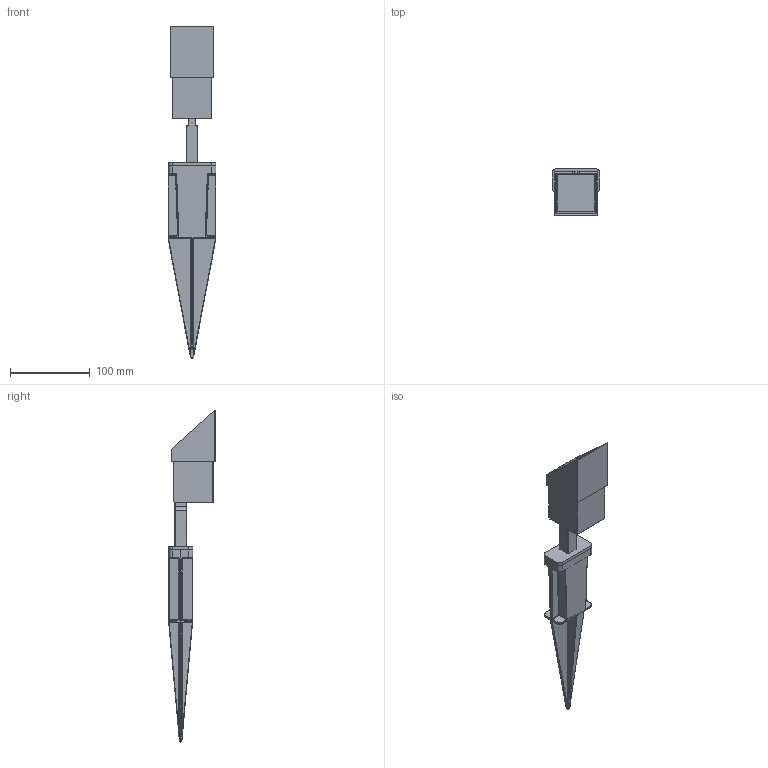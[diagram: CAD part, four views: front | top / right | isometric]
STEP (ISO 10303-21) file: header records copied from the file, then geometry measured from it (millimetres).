
FILE_DESCRIPTION((''),'2;1');
FILE_NAME('NORNALE_GARDEN_SW0001','2026-04-02T16:41:47',('Piccioli'),(''),'CREO PARAMETRIC BY PTC INC, 2025010','CREO PARAMETRIC BY PTC INC, 2025010','');
FILE_SCHEMA(('CONFIG_CONTROL_DESIGN'));
Length unit declared in the file: millimetre
Products named in the file (1): NORNALE_GARDEN_SW0001
Bounding box: 60 x 58.5 x 416.6 mm (x, y, z)
Surface area: 81595.4 mm2 (no closed solid volume)
Topology: 0 solids, 9 shells, 301 faces, 760 edges, 458 vertices
Faces by surface type: cylinder 126, plane 85, bspline 72, sphere 10, torus 6, cone 2
Entity records: 18020 total; most frequent: CARTESIAN_POINT 11413, ORIENTED_EDGE 1406, DIRECTION 1242, EDGE_CURVE 760, VERTEX_POINT 458, AXIS2_PLACEMENT_3D 445, VECTOR 352, LINE 352
